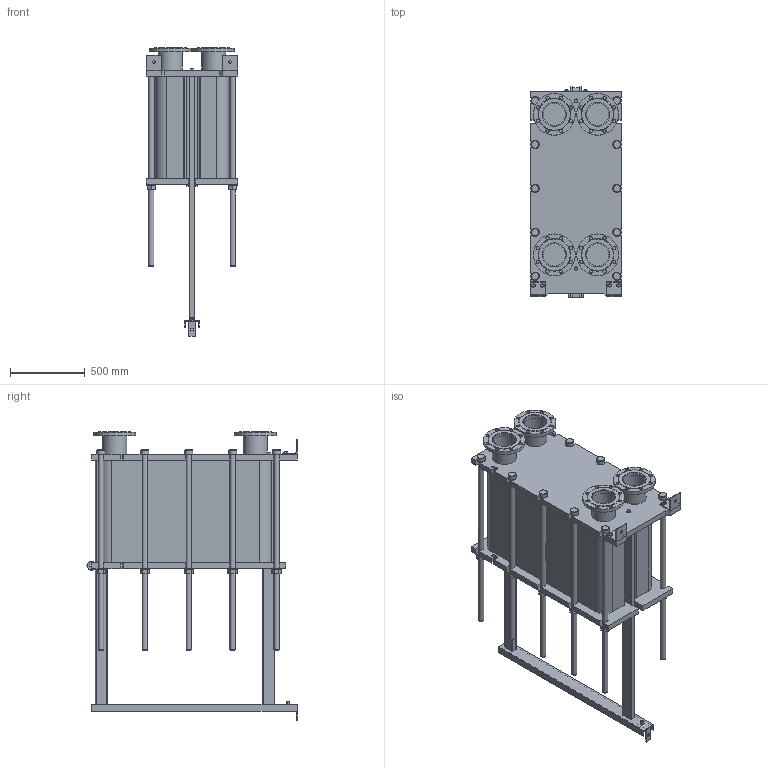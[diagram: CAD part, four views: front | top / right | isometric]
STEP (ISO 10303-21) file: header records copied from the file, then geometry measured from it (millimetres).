
FILE_DESCRIPTION(/* description */ (''),/* implementation_level */ '2;1');
FILE_NAME(/* name */ 'C:\Users\zhuro\Desktop\ENCO\TO\ЭН-041\ЭН-0,5-041-199-1.stp',/* time_stamp */ '2022-06-06T11:06:14+03:00',/* author */ ('zhuro'),/* organization */ (''),/* preprocessor_version */ 'ST-DEVELOPER v18.1',/* originating_system */ 'Autodesk Inventor 2022',/* authorisation */ '');
FILE_SCHEMA (('AUTOMOTIVE_DESIGN { 1 0 10303 214 3 1 1 }'));
Length unit declared in the file: millimetre
Products named in the file (1): ЭН-0,5-041-199-1
Bounding box: 610 x 1406.5 x 1932.5 mm (x, y, z)
Volume: 473571449 mm3; surface area: 11207379.9 mm2
Topology: 52 solids, 52 shells, 711 faces, 1696 edges, 1094 vertices
Faces by surface type: plane 487, cylinder 177, cone 41, torus 6
Full cylindrical faces by diameter (mm): 8 x4, 10 x2, 16 x8, 18 x3, 22 x32, 36 x24, 50 x1, 54 x10, 60 x12, 151 x4, 161 x8, 280 x4
Entity records: 22667 total; most frequent: CARTESIAN_POINT 5230, DIRECTION 3644, ORIENTED_EDGE 3392, EDGE_CURVE 1696, AXIS2_PLACEMENT_3D 1272, LINE 1100, VECTOR 1100, VERTEX_POINT 1094
